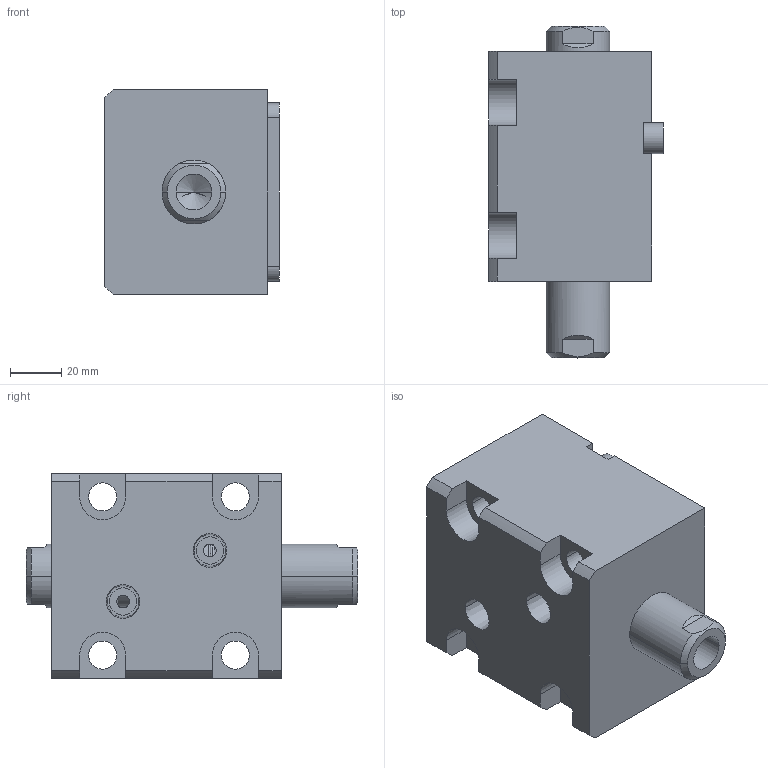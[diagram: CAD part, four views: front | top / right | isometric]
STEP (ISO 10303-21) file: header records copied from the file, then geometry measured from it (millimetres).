
FILE_DESCRIPTION (( 'STEP AP214' ), '1' );
FILE_NAME ('chtb-lw40x20_asm.STEP', '2018-06-05T00:50:54', ( 'Windows' ), ( 'Microsoft' ), 'SwSTEP 2.0', 'SolidWorks 2015', '' );
FILE_SCHEMA (( 'AUTOMOTIVE_DESIGN' ));
Length unit declared in the file: millimetre
Products named in the file (5): CHTB-SD40QG; CHTB-LW40X20NBT; CHTB-LA40PJ; chtb-lw40x20_asm; CHTB-SW40X20NHSG
Assembly tree (4 placements, depth 2):
  chtb-lw40x20_asm
    CHTB-LA40PJ
    CHTB-LW40X20NBT
    CHTB-SD40QG
    CHTB-SW40X20NHSG
Bounding box: 68.5 x 130 x 80 mm (x, y, z)
Volume: 421672.6 mm3; surface area: 83683.5 mm2
Topology: 4 solids, 4 shells, 172 faces, 462 edges, 304 vertices
Faces by surface type: cylinder 77, plane 52, cone 17, bspline 14, torus 12
Entity records: 10654 total; most frequent: CARTESIAN_POINT 6188, ORIENTED_EDGE 904, DIRECTION 853, EDGE_CURVE 452, AXIS2_PLACEMENT_3D 340, VERTEX_POINT 304, EDGE_LOOP 204, CIRCLE 175
